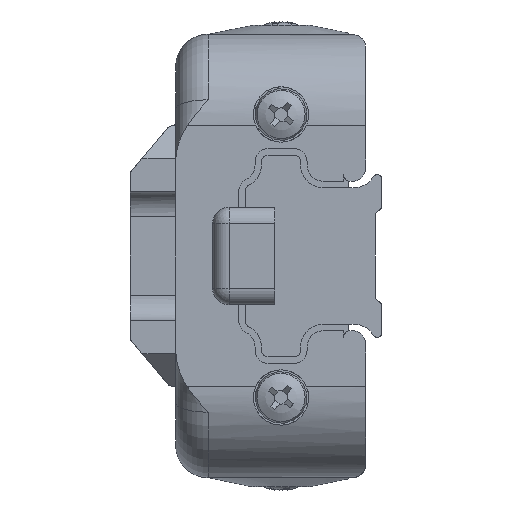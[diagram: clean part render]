
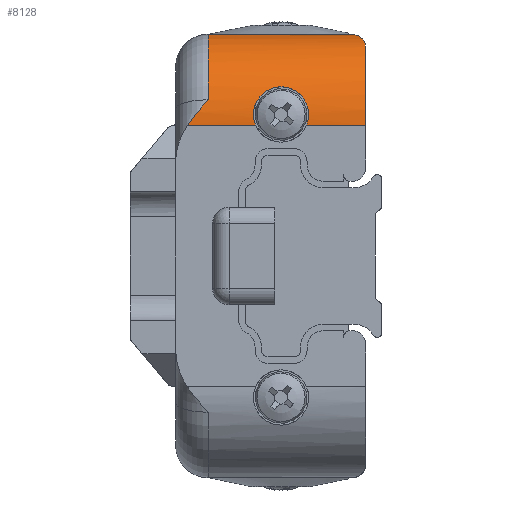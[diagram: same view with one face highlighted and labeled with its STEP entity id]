
A CAD part, left-side view. The second image highlights one B-rep face of the part: STEP entity #8128.
In plain terms, the highlighted cylindrical face has radius 14 mm (diameter 28 mm), a partial arc.
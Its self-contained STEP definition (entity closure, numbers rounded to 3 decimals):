
#182=B_SPLINE_CURVE_WITH_KNOTS('',3,(#13847,#13848,#13849,#13850,#13851,
#13852),.UNSPECIFIED.,.F.,.F.,(4,2,4),(0.,0.377,0.753),
 .UNSPECIFIED.);
#184=B_SPLINE_CURVE_WITH_KNOTS('',3,(#13877,#13878,#13879,#13880,#13881,
#13882),.UNSPECIFIED.,.F.,.F.,(4,2,4),(-0.001,0.,0.499),
 .UNSPECIFIED.);
#185=B_SPLINE_CURVE_WITH_KNOTS('',3,(#13885,#13886,#13887,#13888,#13889,
#13890,#13891,#13892,#13893,#13894,#13895,#13896,#13897,#13898,#13899,#13900,
#13901,#13902,#13903,#13904,#13905,#13906,#13907,#13908,#13909,#13910),
 .UNSPECIFIED.,.F.,.F.,(4,2,2,2,2,2,2,2,2,2,2,2,4),(0.479,0.482,
0.642,0.807,0.972,1.133,1.295,
1.456,1.618,1.783,1.948,2.108,
2.111),.UNSPECIFIED.);
#299=CYLINDRICAL_SURFACE('',#8870,14.);
#495=FACE_OUTER_BOUND('',#948,.T.);
#948=EDGE_LOOP('',(#5947,#5948,#5949,#5950,#5951,#5952,#5953,#5954));
#1545=CIRCLE('',#8871,14.);
#1546=CIRCLE('',#8872,14.);
#2162=LINE('',#13870,#2753);
#2163=LINE('',#13873,#2754);
#2164=LINE('',#13884,#2755);
#2753=VECTOR('',#10527,10.);
#2754=VECTOR('',#10530,10.);
#2755=VECTOR('',#10533,10.);
#3564=VERTEX_POINT('',#13845);
#3565=VERTEX_POINT('',#13846);
#3568=VERTEX_POINT('',#13868);
#3569=VERTEX_POINT('',#13869);
#3570=VERTEX_POINT('',#13872);
#3571=VERTEX_POINT('',#13874);
#3572=VERTEX_POINT('',#13876);
#3573=VERTEX_POINT('',#13883);
#4528=EDGE_CURVE('',#3564,#3565,#182,.T.);
#4532=EDGE_CURVE('',#3568,#3569,#2162,.T.);
#4533=EDGE_CURVE('',#3569,#3565,#1545,.T.);
#4534=EDGE_CURVE('',#3564,#3570,#2163,.T.);
#4535=EDGE_CURVE('',#3570,#3571,#1546,.T.);
#4536=EDGE_CURVE('',#3571,#3572,#184,.T.);
#4537=EDGE_CURVE('',#3573,#3572,#2164,.T.);
#4538=EDGE_CURVE('',#3573,#3568,#185,.T.);
#5947=ORIENTED_EDGE('',*,*,#4532,.T.);
#5948=ORIENTED_EDGE('',*,*,#4533,.T.);
#5949=ORIENTED_EDGE('',*,*,#4528,.F.);
#5950=ORIENTED_EDGE('',*,*,#4534,.T.);
#5951=ORIENTED_EDGE('',*,*,#4535,.T.);
#5952=ORIENTED_EDGE('',*,*,#4536,.T.);
#5953=ORIENTED_EDGE('',*,*,#4537,.F.);
#5954=ORIENTED_EDGE('',*,*,#4538,.T.);
#8128=ADVANCED_FACE('',(#495),#299,.T.);
#8870=AXIS2_PLACEMENT_3D('',#13867,#10525,#10526);
#8871=AXIS2_PLACEMENT_3D('',#13871,#10528,#10529);
#8872=AXIS2_PLACEMENT_3D('',#13875,#10531,#10532);
#10525=DIRECTION('center_axis',(0.,1.,0.));
#10526=DIRECTION('ref_axis',(-0.707,0.,0.707));
#10527=DIRECTION('',(0.,-1.,0.));
#10528=DIRECTION('center_axis',(0.,1.,0.));
#10529=DIRECTION('ref_axis',(0.939,0.,-0.343));
#10530=DIRECTION('',(0.,1.,0.));
#10531=DIRECTION('center_axis',(0.,-1.,0.));
#10532=DIRECTION('ref_axis',(0.,0.,
1.));
#10533=DIRECTION('',(0.,1.,0.));
#13845=CARTESIAN_POINT('',(-41.,-11.,34.1));
#13846=CARTESIAN_POINT('',(-48.211,-13.,32.1));
#13847=CARTESIAN_POINT('Ctrl Pts',(-41.,-11.,
34.1));
#13848=CARTESIAN_POINT('Ctrl Pts',(-42.174,-11.444,
34.1));
#13849=CARTESIAN_POINT('Ctrl Pts',(-43.449,-11.93,
33.944));
#13850=CARTESIAN_POINT('Ctrl Pts',(-45.93,-12.704,
33.266));
#13851=CARTESIAN_POINT('Ctrl Pts',(-47.135,-13.,32.747));
#13852=CARTESIAN_POINT('Ctrl Pts',(-48.211,-13.,
32.1));
#13867=CARTESIAN_POINT('Origin',(-41.,9.6,20.1));
#13868=CARTESIAN_POINT('',(-55.,-3.917,20.1));
#13869=CARTESIAN_POINT('',(-55.,-13.,20.1));
#13870=CARTESIAN_POINT('',(-55.,-3.619,20.1));
#13871=CARTESIAN_POINT('Origin',(-41.,-13.,20.1));
#13872=CARTESIAN_POINT('',(-41.,11.2,34.1));
#13873=CARTESIAN_POINT('',(-41.,5.631,34.1));
#13874=CARTESIAN_POINT('',(-54.445,11.2,24.002));
#13875=CARTESIAN_POINT('Origin',(-41.,11.2,20.1));
#13876=CARTESIAN_POINT('',(-55.,14.415,20.1));
#13877=CARTESIAN_POINT('Ctrl Pts',(-54.445,11.2,24.002));
#13878=CARTESIAN_POINT('Ctrl Pts',(-54.446,11.203,23.998));
#13879=CARTESIAN_POINT('Ctrl Pts',(-54.447,11.206,23.995));
#13880=CARTESIAN_POINT('Ctrl Pts',(-54.794,12.317,22.796));
#13881=CARTESIAN_POINT('Ctrl Pts',(-55.,13.487,21.488));
#13882=CARTESIAN_POINT('Ctrl Pts',(-55.,14.415,20.1));
#13883=CARTESIAN_POINT('',(-55.,3.917,20.1));
#13884=CARTESIAN_POINT('',(-55.,9.6,20.1));
#13885=CARTESIAN_POINT('Ctrl Pts',(-55.,3.917,20.1));
#13886=CARTESIAN_POINT('Ctrl Pts',(-55.,3.921,20.11));
#13887=CARTESIAN_POINT('Ctrl Pts',(-55.,3.925,20.12));
#13888=CARTESIAN_POINT('Ctrl Pts',(-54.999,4.145,20.652));
#13889=CARTESIAN_POINT('Ctrl Pts',(-54.965,4.25,21.22));
#13890=CARTESIAN_POINT('Ctrl Pts',(-54.838,4.25,22.296));
#13891=CARTESIAN_POINT('Ctrl Pts',(-54.734,4.139,22.871));
#13892=CARTESIAN_POINT('Ctrl Pts',(-54.479,3.698,23.92));
#13893=CARTESIAN_POINT('Ctrl Pts',(-54.331,3.369,24.395));
#13894=CARTESIAN_POINT('Ctrl Pts',(-54.068,2.618,25.138));
#13895=CARTESIAN_POINT('Ctrl Pts',(-53.935,2.148,25.46));
#13896=CARTESIAN_POINT('Ctrl Pts',(-53.748,1.108,25.891));
#13897=CARTESIAN_POINT('Ctrl Pts',(-53.696,0.539,
26.));
#13898=CARTESIAN_POINT('Ctrl Pts',(-53.696,-0.539,
26.));
#13899=CARTESIAN_POINT('Ctrl Pts',(-53.748,-1.108,
25.891));
#13900=CARTESIAN_POINT('Ctrl Pts',(-53.935,-2.148,
25.46));
#13901=CARTESIAN_POINT('Ctrl Pts',(-54.068,-2.618,
25.138));
#13902=CARTESIAN_POINT('Ctrl Pts',(-54.331,-3.369,24.395));
#13903=CARTESIAN_POINT('Ctrl Pts',(-54.479,-3.698,23.92));
#13904=CARTESIAN_POINT('Ctrl Pts',(-54.734,-4.139,
22.871));
#13905=CARTESIAN_POINT('Ctrl Pts',(-54.838,-4.25,
22.296));
#13906=CARTESIAN_POINT('Ctrl Pts',(-54.965,-4.25,
21.22));
#13907=CARTESIAN_POINT('Ctrl Pts',(-54.999,-4.145,
20.652));
#13908=CARTESIAN_POINT('Ctrl Pts',(-55.,-3.925,
20.12));
#13909=CARTESIAN_POINT('Ctrl Pts',(-55.,-3.921,
20.11));
#13910=CARTESIAN_POINT('Ctrl Pts',(-55.,-3.917,
20.1));
